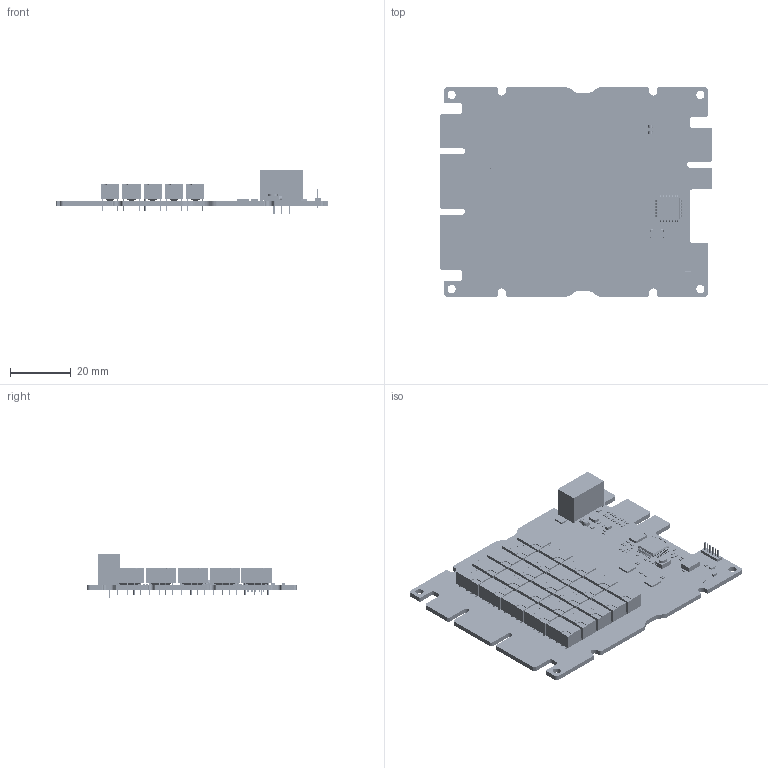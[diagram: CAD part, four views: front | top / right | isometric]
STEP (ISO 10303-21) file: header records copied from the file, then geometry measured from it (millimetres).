
FILE_DESCRIPTION(('Open CASCADE Model'),'2;1');
FILE_NAME('Open CASCADE Shape Model','2026-08-19T14:43:33',('Author'),( 'Open CASCADE'),'Open CASCADE STEP processor 7.5','Open CASCADE 7.5' ,'Unknown');
FILE_SCHEMA(('AUTOMOTIVE_DESIGN { 1 0 10303 214 1 1 1 1 }'));
Length unit declared in the file: millimetre
Products named in the file (230): Open CASCADE STEP translator 7.5 3618; Open CASCADE STEP translator 7.5 3619; Open CASCADE STEP translator 7.5 3620; Open CASCADE STEP translator 7.5 3621; Open CASCADE STEP translator 7.5 3622; Open CASCADE STEP translator 7.5 3623; Open CASCADE STEP translator 7.5 3624; Open CASCADE STEP translator 7.5 3625; Open CASCADE STEP translator 7.5 3626; Open CASCADE STEP translator 7.5 3627; Open CASCADE STEP translator 7.5 3628; Open CASCADE STEP translator 7.5 3629; Open CASCADE STEP translator 7.5 3630; Open CASCADE STEP translator 7.5 3631; Open CASCADE STEP translator 7.5 3632; Open CASCADE STEP translator 7.5 3633; Open CASCADE STEP translator 7.5 3634; Open CASCADE STEP translator 7.5 3635; Open CASCADE STEP translator 7.5 3636; Open CASCADE STEP translator 7.5 3637; Open CASCADE STEP translator 7.5 3638; Open CASCADE STEP translator 7.5 3639; Open CASCADE STEP translator 7.5 3640; Open CASCADE STEP translator 7.5 3641; Open CASCADE STEP translator 7.5 3642; Open CASCADE STEP translator 7.5 3643; Open CASCADE STEP translator 7.5 3644; Open CASCADE STEP translator 7.5 3645; Open CASCADE STEP translator 7.5 3646; Open CASCADE STEP translator 7.5 3647; Open CASCADE STEP translator 7.5 3648; Open CASCADE STEP translator 7.5 3649; Open CASCADE STEP translator 7.5 3650; Open CASCADE STEP translator 7.5 3651; Open CASCADE STEP translator 7.5 3652; Open CASCADE STEP translator 7.5 3653; Open CASCADE STEP translator 7.5 3654; Open CASCADE STEP translator 7.5 3655; Open CASCADE STEP translator 7.5 3656; Open CASCADE STEP translator 7.5 3657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
Bounding box: 90 x 69 x 14.2 mm (x, y, z)
Volume: 17976.3 mm3; surface area: 22450.8 mm2
Topology: 297 solids, 297 shells, 8111 faces, 20276 edges, 13472 vertices
Faces by surface type: plane 5504, bspline 1604, cylinder 967, sphere 24, torus 8, cone 4
Full cylindrical faces by diameter (mm): 0.08 x1, 0.289 x1, 0.3 x6, 0.5 x3, 0.6 x6, 0.75 x200, 0.94 x3, 1.4 x1, 1.6 x2, 2.7 x4
Entity records: 384455 total; most frequent: CARTESIAN_POINT 153543, ORIENTED_EDGE 40552, DIRECTION 32019, EDGE_CURVE 20276, LINE 15119, VECTOR 15119, VERTEX_POINT 13472, FACE_BOUND 9250
